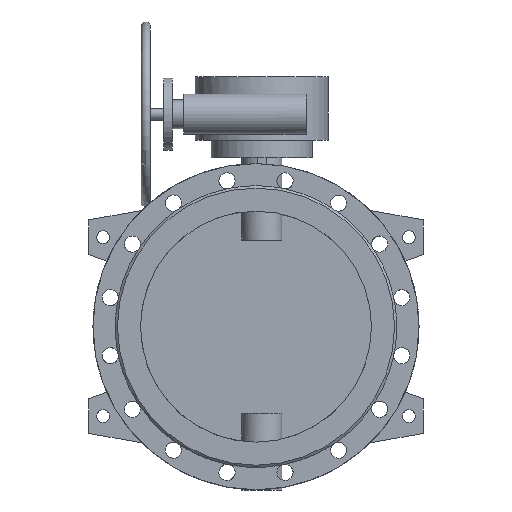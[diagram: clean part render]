
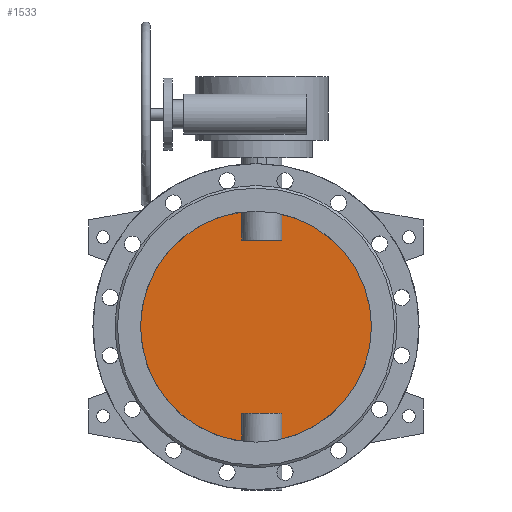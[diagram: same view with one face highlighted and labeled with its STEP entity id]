
A CAD part, front view. The second image highlights one B-rep face of the part: STEP entity #1533.
In plain terms, the highlighted planar face has unit normal (0, -1, 0).
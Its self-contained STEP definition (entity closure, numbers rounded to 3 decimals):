
#1533=ADVANCED_FACE('',(#3103),#3105,.F.);
#3103=FACE_BOUND('',#3104,.T.);
#3104=EDGE_LOOP('',(#4198,#4199,#4200,#4201,#4202,#4203,#4204,#4205));
#3105=PLANE('',#3106);
#3106=AXIS2_PLACEMENT_3D('',#3107,#3108,#3109);
#3107=CARTESIAN_POINT('',(0.,-5.,0.));
#3108=DIRECTION('',(0.,1.,0.));
#3109=DIRECTION('',(1.,0.,0.));
#4198=ORIENTED_EDGE('',*,*,#4701,.T.);
#4199=ORIENTED_EDGE('',*,*,#4728,.T.);
#4200=ORIENTED_EDGE('',*,*,#4729,.T.);
#4201=ORIENTED_EDGE('',*,*,#4730,.T.);
#4202=ORIENTED_EDGE('',*,*,#4703,.T.);
#4203=ORIENTED_EDGE('',*,*,#4731,.T.);
#4204=ORIENTED_EDGE('',*,*,#4732,.T.);
#4205=ORIENTED_EDGE('',*,*,#4733,.T.);
#4701=EDGE_CURVE('',#5561,#5562,#5563,.F.);
#4703=EDGE_CURVE('',#5566,#5564,#5567,.F.);
#4728=EDGE_CURVE('',#5562,#5597,#5598,.T.);
#4729=EDGE_CURVE('',#5597,#5599,#5600,.F.);
#4730=EDGE_CURVE('',#5599,#5566,#5601,.F.);
#4731=EDGE_CURVE('',#5564,#5602,#5603,.F.);
#4732=EDGE_CURVE('',#5602,#5604,#5605,.F.);
#4733=EDGE_CURVE('',#5604,#5561,#5606,.T.);
#5561=VERTEX_POINT('',#12010);
#5562=VERTEX_POINT('',#12011);
#5563=CIRCLE('',#12012,200.);
#5564=VERTEX_POINT('',#12016);
#5566=VERTEX_POINT('',#12079);
#5567=CIRCLE('',#12080,200.);
#5597=VERTEX_POINT('',#12292);
#5598=LINE('',#12293,#12294);
#5599=VERTEX_POINT('',#12296);
#5600=LINE('',#12297,#12298);
#5601=LINE('',#12300,#12301);
#5602=VERTEX_POINT('',#12303);
#5603=LINE('',#12304,#12305);
#5604=VERTEX_POINT('',#12307);
#5605=LINE('',#12308,#12309);
#5606=LINE('',#12311,#12312);
#12010=CARTESIAN_POINT('',(44.641,-5.,-194.954));
#12011=CARTESIAN_POINT('',(44.641,-5.,194.954));
#12012=AXIS2_PLACEMENT_3D('',#12013,#12014,#12015);
#12013=CARTESIAN_POINT('',(0.,-5.,0.));
#12014=DIRECTION('',(0.,1.,0.));
#12015=DIRECTION('',(0.223,0.,0.975));
#12016=CARTESIAN_POINT('',(-24.641,-5.,-198.476));
#12079=CARTESIAN_POINT('',(-24.641,-5.,198.476));
#12080=AXIS2_PLACEMENT_3D('',#12081,#12082,#12083);
#12081=CARTESIAN_POINT('',(0.,-5.,0.));
#12082=DIRECTION('',(0.,1.,0.));
#12083=DIRECTION('',(-0.123,0.,-0.992));
#12292=CARTESIAN_POINT('',(44.641,-5.,150.));
#12293=CARTESIAN_POINT('',(44.641,-5.,194.954));
#12294=VECTOR('',#12295,1.);
#12295=DIRECTION('',(0.,0.,-1.));
#12296=CARTESIAN_POINT('',(-24.641,-5.,150.));
#12297=CARTESIAN_POINT('',(-24.641,-5.,150.));
#12298=VECTOR('',#12299,1.);
#12299=DIRECTION('',(1.,0.,0.));
#12300=CARTESIAN_POINT('',(-24.641,-5.,198.476));
#12301=VECTOR('',#12302,1.);
#12302=DIRECTION('',(0.,0.,-1.));
#12303=CARTESIAN_POINT('',(-24.641,-5.,-150.));
#12304=CARTESIAN_POINT('',(-24.641,-5.,-150.));
#12305=VECTOR('',#12306,1.);
#12306=DIRECTION('',(0.,0.,-1.));
#12307=CARTESIAN_POINT('',(44.641,-5.,-150.));
#12308=CARTESIAN_POINT('',(44.641,-5.,-150.));
#12309=VECTOR('',#12310,1.);
#12310=DIRECTION('',(-1.,0.,0.));
#12311=CARTESIAN_POINT('',(44.641,-5.,-150.));
#12312=VECTOR('',#12313,1.);
#12313=DIRECTION('',(0.,0.,-1.));
